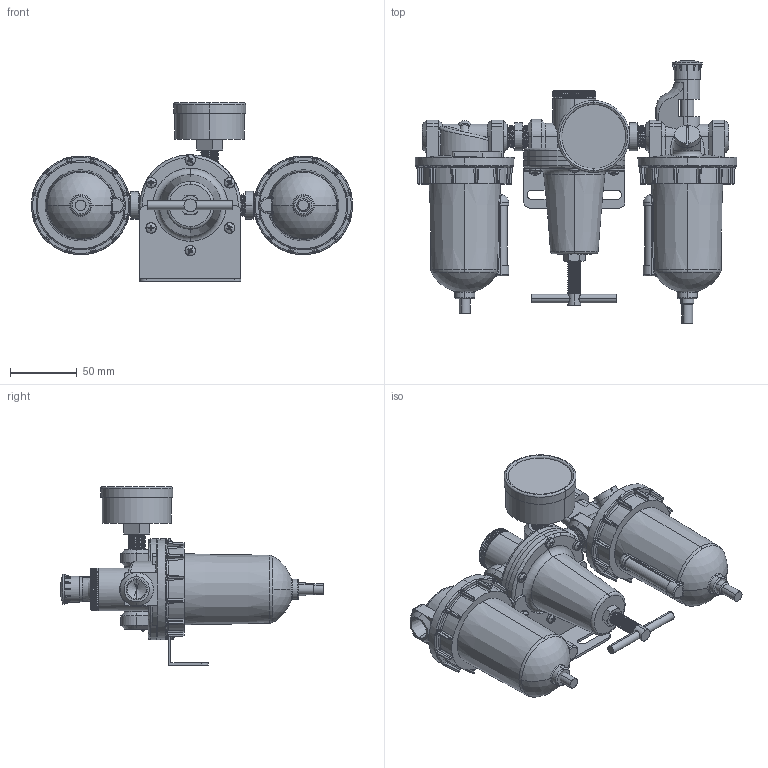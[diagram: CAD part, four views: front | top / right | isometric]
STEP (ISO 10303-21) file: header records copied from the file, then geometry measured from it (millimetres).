
FILE_DESCRIPTION (( 'STEP AP203' ), '1' );
FILE_NAME ('C628W-03#YB#.STEP', '2016-02-16T03:59:09', ( '' ), ( '' ), 'SwSTEP 2.0', 'SolidWorks 2014', '' );
FILE_SCHEMA (( 'CONFIG_CONTROL_DESIGN' ));
Length unit declared in the file: millimetre
Products named in the file (25): R119-02-7; L606-W-06-3; R119-02-1; L606-W-06-5; 50-P-AD=1-4PT.SLDPRT; C628W-03#YB#; R119-02-6; R119-02-2; KW15Y57; R119-02-5; R119-02-4; F602W-03#YB#; ISO 7045 - M4 x 16; R119-03; 50-P-AD=1-4PT-2; L606-W-06-4; L606-W-04-1; 50-P-AD=1-4PT-1
Assembly tree (33 placements, depth 4):
  C628W-03#YB#
    R119-03
      R119-02-1
      R119-02-2
      (unnamed)
      R119-02-4
      ISO 7045 - M4 x 16  x6
      R119-02-5
      R119-02-6
      R119-02-7
      KW15Y57
      50-P-AD=1-4PT.SLDPRT
        50-P-AD=1-4PT-1
        50-P-AD=1-4PT-2
    (unnamed)
      L606-W-06-5
      L606-W-06-4
      L606-W-06-3  x2
      L606-W-04-1
      (unnamed)
      (unnamed)
    (unnamed)  x2
    F602W-03#YB#
      (unnamed)
      L606-W-06-5
      (unnamed)
      (unnamed)
Bounding box: 241 x 197 x 134 mm (x, y, z)
Volume: 859711.3 mm3; surface area: 168456.5 mm2
Topology: 30 solids, 30 shells, 1701 faces, 4209 edges, 2518 vertices
Faces by surface type: plane 564, cylinder 386, cone 325, bspline 233, torus 115, sphere 78
Entity records: 62241 total; most frequent: CARTESIAN_POINT 27751, ORIENTED_EDGE 7122, DIRECTION 6110, EDGE_CURVE 3561, AXIS2_PLACEMENT_3D 2523, VERTEX_POINT 2157, EDGE_LOOP 1510, FACE_OUTER_BOUND 1465
